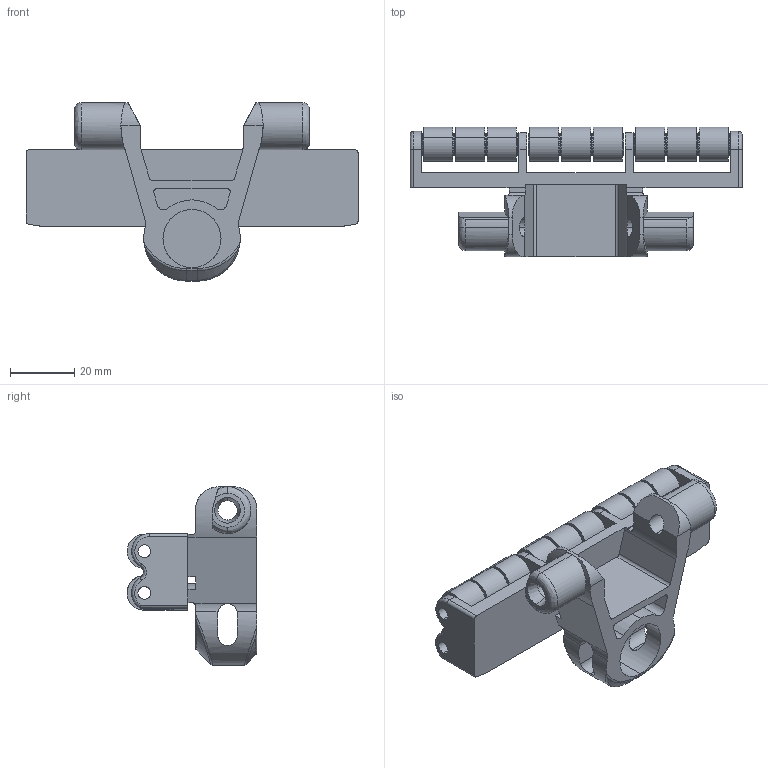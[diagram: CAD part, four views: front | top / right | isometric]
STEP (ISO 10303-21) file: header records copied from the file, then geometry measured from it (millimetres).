
FILE_DESCRIPTION (( 'STEP AP214' ), '1' );
FILE_NAME ('FCRT 5.STEP', '2017-04-04T13:30:12', ( '' ), ( '' ), 'SwSTEP 2.0', 'SolidWorks 2016', '' );
FILE_SCHEMA (( 'AUTOMOTIVE_DESIGN' ));
Length unit declared in the file: millimetre
Products named in the file (4): Galets F...RT; FCPC-5_FCRT; Axe pour F..RT_FC; FCRT 5
Assembly tree (19 placements, depth 2):
  Axe pour F..RT_FC
  FCRT 5
    Galets F...RT  x18
    FCPC-5_FCRT
Bounding box: 103 x 40.25 x 55.3 mm (x, y, z)
Volume: 43534 mm3; surface area: 28805.6 mm2
Topology: 19 solids, 19 shells, 541 faces, 1238 edges, 766 vertices
Faces by surface type: cylinder 229, bspline 164, plane 140, cone 8
Entity records: 8327 total; most frequent: CARTESIAN_POINT 3127, ORIENTED_EDGE 1108, DIRECTION 1022, EDGE_CURVE 554, AXIS2_PLACEMENT_3D 377, VERTEX_POINT 354, VECTOR 268, LINE 268
